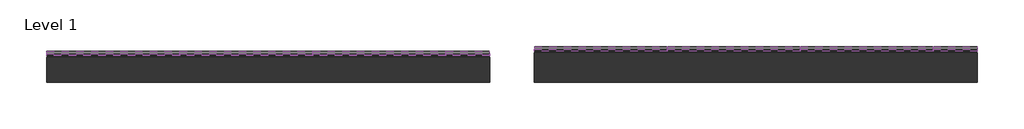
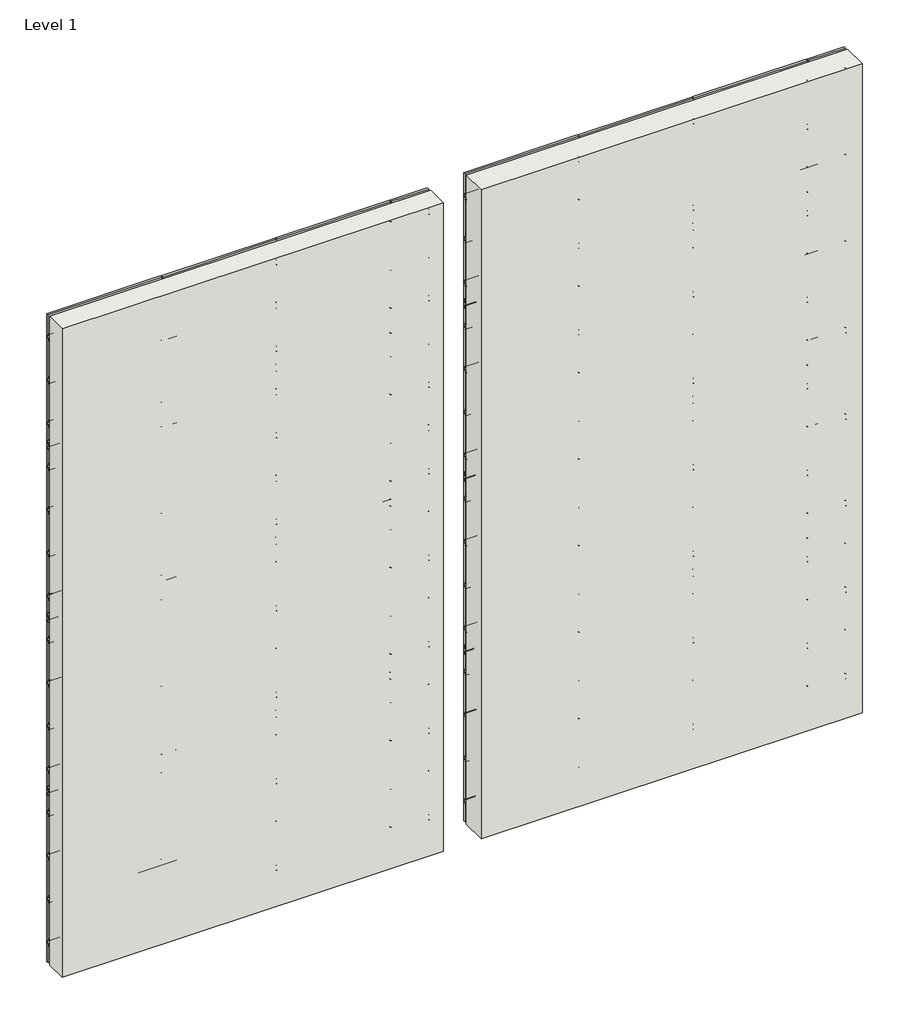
# One storey, incomplete: 32 plates, 24 members, 2 walls.
"""IFC4 building model written with IfcOpenShell, lengths in millimetres."""

from ifc_helpers import new_model, si_unit, origin, origin_with_axes, place, context, project, spatial, polyline, outline, extrude, transform, mapped, element, save
from components import rectangular_mullion_kws_revealrail_mullion_9bbd98a8, rectangular_mullion_kws_revealrail_mullion_add762a1, rectangular_mullion_kws_revealrail_mullion_47fc8865, plate_96b6a4fe, plate_c225038f, plate_bb21e225, plate_c696ad90

model = new_model("IFC4")

# Units and contexts
model_context = context("Model", 3, world=origin())
ifc_project = project(units=[si_unit("LENGTHUNIT", "METRE", prefix="MILLI")], contexts=[model_context])

# Site, building, storey
site = spatial("IfcSite", under=ifc_project)
building = spatial("IfcBuilding", under=site)
storey = spatial("IfcBuildingStorey", under=building, Name="Level 1", Elevation=0.0)

# Members
placement = place(None, origin())
rectangular_mullion_kws_revealrail_mullion_shape = rectangular_mullion_kws_revealrail_mullion_9bbd98a8(model_context)
element("IfcMember", 1, ObjectType="Rectangular Mullion : KWS_RevealRail_Mullion", at=placement, inside=storey, context=model_context, shape_type="MappedRepresentation", body=[
    mapped(rectangular_mullion_kws_revealrail_mullion_shape, transform((2855.9764743, 7354.7086092, 2438.4), x_axis=(0.0, 0.0, 1.0), y_axis=(0.0, -1.0, 0.0), z_axis=(1.0, 0.0, 0.0))),
])
element("IfcMember", 2, ObjectType="Rectangular Mullion : KWS_RevealRail_Mullion", at=placement, inside=storey, context=model_context, shape_type="MappedRepresentation", body=[
    mapped(rectangular_mullion_kws_revealrail_mullion_shape, transform((2855.9764743, 7354.7086092, 4876.8), x_axis=(0.0, 0.0, 1.0), y_axis=(0.0, -1.0, 0.0), z_axis=(1.0, 0.0, 0.0))),
])
element("IfcMember", 3, ObjectType="Rectangular Mullion : KWS_RevealRail_Mullion", at=placement, inside=storey, context=model_context, shape_type="MappedRepresentation", body=[
    mapped(rectangular_mullion_kws_revealrail_mullion_shape, transform((2855.9764743, 7354.7086092, 7315.2), x_axis=(0.0, 0.0, 1.0), y_axis=(0.0, -1.0, 0.0), z_axis=(1.0, 0.0, 0.0))),
])
element("IfcMember", 4, ObjectType="Rectangular Mullion : KWS_RevealRail_Mullion", at=placement, inside=storey, context=model_context, shape_type="MappedRepresentation", body=[
    mapped(rectangular_mullion_kws_revealrail_mullion_shape, transform((8443.9764743, 7405.5086092, 2438.4), x_axis=(0.0, 0.0, 1.0), y_axis=(0.0, -1.0, 0.0), z_axis=(1.0, 0.0, 0.0))),
])
element("IfcMember", 5, ObjectType="Rectangular Mullion : KWS_RevealRail_Mullion", at=placement, inside=storey, context=model_context, shape_type="MappedRepresentation", body=[
    mapped(rectangular_mullion_kws_revealrail_mullion_shape, transform((8443.9764743, 7405.5086092, 4876.8), x_axis=(0.0, 0.0, 1.0), y_axis=(0.0, -1.0, 0.0), z_axis=(1.0, 0.0, 0.0))),
])
element("IfcMember", 6, ObjectType="Rectangular Mullion : KWS_RevealRail_Mullion", at=placement, inside=storey, context=model_context, shape_type="MappedRepresentation", body=[
    mapped(rectangular_mullion_kws_revealrail_mullion_shape, transform((8443.9764743, 7405.5086092, 7315.2), x_axis=(0.0, 0.0, 1.0), y_axis=(0.0, -1.0, 0.0), z_axis=(1.0, 0.0, 0.0))),
])
rectangular_mullion_kws_revealrail_mullion_2_shape = rectangular_mullion_kws_revealrail_mullion_add762a1(model_context)
element("IfcMember", 7, ObjectType="Rectangular Mullion : KWS_RevealRail_Mullion", at=placement, inside=storey, context=model_context, shape_type="MappedRepresentation", body=[
    mapped(rectangular_mullion_kws_revealrail_mullion_2_shape, transform((4379.9764743, 7354.7086092, 2438.4), x_axis=(0.0, 0.0, 1.0), y_axis=(0.0, -1.0, 0.0), z_axis=(1.0, 0.0, 0.0))),
])
element("IfcMember", 8, ObjectType="Rectangular Mullion : KWS_RevealRail_Mullion", at=placement, inside=storey, context=model_context, shape_type="MappedRepresentation", body=[
    mapped(rectangular_mullion_kws_revealrail_mullion_2_shape, transform((5903.9764743, 7354.7086092, 2438.4), x_axis=(0.0, 0.0, 1.0), y_axis=(0.0, -1.0, 0.0), z_axis=(1.0, 0.0, 0.0))),
])
element("IfcMember", 9, ObjectType="Rectangular Mullion : KWS_RevealRail_Mullion", at=placement, inside=storey, context=model_context, shape_type="MappedRepresentation", body=[
    mapped(rectangular_mullion_kws_revealrail_mullion_2_shape, transform((4379.9764743, 7354.7086092, 4876.8), x_axis=(0.0, 0.0, 1.0), y_axis=(0.0, -1.0, 0.0), z_axis=(1.0, 0.0, 0.0))),
])
element("IfcMember", 10, ObjectType="Rectangular Mullion : KWS_RevealRail_Mullion", at=placement, inside=storey, context=model_context, shape_type="MappedRepresentation", body=[
    mapped(rectangular_mullion_kws_revealrail_mullion_2_shape, transform((5903.9764743, 7354.7086092, 4876.8), x_axis=(0.0, 0.0, 1.0), y_axis=(0.0, -1.0, 0.0), z_axis=(1.0, 0.0, 0.0))),
])
element("IfcMember", 11, ObjectType="Rectangular Mullion : KWS_RevealRail_Mullion", at=placement, inside=storey, context=model_context, shape_type="MappedRepresentation", body=[
    mapped(rectangular_mullion_kws_revealrail_mullion_2_shape, transform((4379.9764743, 7354.7086092, 7315.2), x_axis=(0.0, 0.0, 1.0), y_axis=(0.0, -1.0, 0.0), z_axis=(1.0, 0.0, 0.0))),
])
element("IfcMember", 12, ObjectType="Rectangular Mullion : KWS_RevealRail_Mullion", at=placement, inside=storey, context=model_context, shape_type="MappedRepresentation", body=[
    mapped(rectangular_mullion_kws_revealrail_mullion_2_shape, transform((5903.9764743, 7354.7086092, 7315.2), x_axis=(0.0, 0.0, 1.0), y_axis=(0.0, -1.0, 0.0), z_axis=(1.0, 0.0, 0.0))),
])
element("IfcMember", 13, ObjectType="Rectangular Mullion : KWS_RevealRail_Mullion", at=placement, inside=storey, context=model_context, shape_type="MappedRepresentation", body=[
    mapped(rectangular_mullion_kws_revealrail_mullion_2_shape, transform((9967.9764743, 7405.5086092, 2438.4), x_axis=(0.0, 0.0, 1.0), y_axis=(0.0, -1.0, 0.0), z_axis=(1.0, 0.0, 0.0))),
])
element("IfcMember", 14, ObjectType="Rectangular Mullion : KWS_RevealRail_Mullion", at=placement, inside=storey, context=model_context, shape_type="MappedRepresentation", body=[
    mapped(rectangular_mullion_kws_revealrail_mullion_2_shape, transform((11491.9764743, 7405.5086092, 2438.4), x_axis=(0.0, 0.0, 1.0), y_axis=(0.0, -1.0, 0.0), z_axis=(1.0, 0.0, 0.0))),
])
element("IfcMember", 15, ObjectType="Rectangular Mullion : KWS_RevealRail_Mullion", at=placement, inside=storey, context=model_context, shape_type="MappedRepresentation", body=[
    mapped(rectangular_mullion_kws_revealrail_mullion_2_shape, transform((9967.9764743, 7405.5086092, 4876.8), x_axis=(0.0, 0.0, 1.0), y_axis=(0.0, -1.0, 0.0), z_axis=(1.0, 0.0, 0.0))),
])
element("IfcMember", 16, ObjectType="Rectangular Mullion : KWS_RevealRail_Mullion", at=placement, inside=storey, context=model_context, shape_type="MappedRepresentation", body=[
    mapped(rectangular_mullion_kws_revealrail_mullion_2_shape, transform((11491.9764743, 7405.5086092, 4876.8), x_axis=(0.0, 0.0, 1.0), y_axis=(0.0, -1.0, 0.0), z_axis=(1.0, 0.0, 0.0))),
])
element("IfcMember", 17, ObjectType="Rectangular Mullion : KWS_RevealRail_Mullion", at=placement, inside=storey, context=model_context, shape_type="MappedRepresentation", body=[
    mapped(rectangular_mullion_kws_revealrail_mullion_2_shape, transform((9967.9764743, 7405.5086092, 7315.2), x_axis=(0.0, 0.0, 1.0), y_axis=(0.0, -1.0, 0.0), z_axis=(1.0, 0.0, 0.0))),
])
element("IfcMember", 18, ObjectType="Rectangular Mullion : KWS_RevealRail_Mullion", at=placement, inside=storey, context=model_context, shape_type="MappedRepresentation", body=[
    mapped(rectangular_mullion_kws_revealrail_mullion_2_shape, transform((11491.9764743, 7405.5086092, 7315.2), x_axis=(0.0, 0.0, 1.0), y_axis=(0.0, -1.0, 0.0), z_axis=(1.0, 0.0, 0.0))),
])
rectangular_mullion_kws_revealrail_mullion_3_shape = rectangular_mullion_kws_revealrail_mullion_47fc8865(model_context)
element("IfcMember", 19, ObjectType="Rectangular Mullion : KWS_RevealRail_Mullion", at=placement, inside=storey, context=model_context, shape_type="MappedRepresentation", body=[
    mapped(rectangular_mullion_kws_revealrail_mullion_3_shape, transform((6411.976474, 7354.7086092, 2438.4), x_axis=(0.0, 0.0, 1.0), y_axis=(0.0, -1.0, 0.0), z_axis=(1.0, 0.0, 0.0))),
])
element("IfcMember", 20, ObjectType="Rectangular Mullion : KWS_RevealRail_Mullion", at=placement, inside=storey, context=model_context, shape_type="MappedRepresentation", body=[
    mapped(rectangular_mullion_kws_revealrail_mullion_3_shape, transform((6411.976474, 7354.7086092, 4876.8), x_axis=(0.0, 0.0, 1.0), y_axis=(0.0, -1.0, 0.0), z_axis=(1.0, 0.0, 0.0))),
])
element("IfcMember", 21, ObjectType="Rectangular Mullion : KWS_RevealRail_Mullion", at=placement, inside=storey, context=model_context, shape_type="MappedRepresentation", body=[
    mapped(rectangular_mullion_kws_revealrail_mullion_3_shape, transform((6411.976474, 7354.7086092, 7315.2), x_axis=(0.0, 0.0, 1.0), y_axis=(0.0, -1.0, 0.0), z_axis=(1.0, 0.0, 0.0))),
])
element("IfcMember", 22, ObjectType="Rectangular Mullion : KWS_RevealRail_Mullion", at=placement, inside=storey, context=model_context, shape_type="MappedRepresentation", body=[
    mapped(rectangular_mullion_kws_revealrail_mullion_3_shape, transform((11999.976474, 7405.5086092, 2438.4), x_axis=(0.0, 0.0, 1.0), y_axis=(0.0, -1.0, 0.0), z_axis=(1.0, 0.0, 0.0))),
])
element("IfcMember", 23, ObjectType="Rectangular Mullion : KWS_RevealRail_Mullion", at=placement, inside=storey, context=model_context, shape_type="MappedRepresentation", body=[
    mapped(rectangular_mullion_kws_revealrail_mullion_3_shape, transform((11999.976474, 7405.5086092, 4876.8), x_axis=(0.0, 0.0, 1.0), y_axis=(0.0, -1.0, 0.0), z_axis=(1.0, 0.0, 0.0))),
])
element("IfcMember", 24, ObjectType="Rectangular Mullion : KWS_RevealRail_Mullion", at=placement, inside=storey, context=model_context, shape_type="MappedRepresentation", body=[
    mapped(rectangular_mullion_kws_revealrail_mullion_3_shape, transform((11999.976474, 7405.5086092, 7315.2), x_axis=(0.0, 0.0, 1.0), y_axis=(0.0, -1.0, 0.0), z_axis=(1.0, 0.0, 0.0))),
])

# Plates
plate_shape = plate_96b6a4fe(model_context)
element("IfcPlate", 25, ObjectType="KWS_Generic-Panel_w_PanelRail-H : 2\" x 3/4\"", at=placement, inside=storey, context=model_context, shape_type="MappedRepresentation", body=[
    mapped(plate_shape, transform((2093.9764741, 7354.7086092, 0.0), x_axis=(1.0, 0.0, 0.0), y_axis=(0.0, 1.0, 0.0), z_axis=(0.0, 0.0, 1.0))),
])
element("IfcPlate", 26, ObjectType="KWS_Generic-Panel_w_PanelRail-H : 2\" x 3/4\"", at=placement, inside=storey, context=model_context, shape_type="MappedRepresentation", body=[
    mapped(plate_shape, transform((3617.9764743, 7354.7086092, 0.0), x_axis=(1.0, 0.0, 0.0), y_axis=(0.0, 1.0, 0.0), z_axis=(0.0, 0.0, 1.0))),
])
element("IfcPlate", 27, ObjectType="KWS_Generic-Panel_w_PanelRail-H : 2\" x 3/4\"", at=placement, inside=storey, context=model_context, shape_type="MappedRepresentation", body=[
    mapped(plate_shape, transform((5141.9764743, 7354.7086092, 0.0), x_axis=(1.0, 0.0, 0.0), y_axis=(0.0, 1.0, 0.0), z_axis=(0.0, 0.0, 1.0))),
])
element("IfcPlate", 28, ObjectType="KWS_Generic-Panel_w_PanelRail-H : 2\" x 3/4\"", at=placement, inside=storey, context=model_context, shape_type="MappedRepresentation", body=[
    mapped(plate_shape, transform((2093.9764741, 7354.7086092, 2438.4), x_axis=(1.0, 0.0, 0.0), y_axis=(0.0, 1.0, 0.0), z_axis=(0.0, 0.0, 1.0))),
])
element("IfcPlate", 29, ObjectType="KWS_Generic-Panel_w_PanelRail-H : 2\" x 3/4\"", at=placement, inside=storey, context=model_context, shape_type="MappedRepresentation", body=[
    mapped(plate_shape, transform((3617.9764743, 7354.7086092, 2438.4), x_axis=(1.0, 0.0, 0.0), y_axis=(0.0, 1.0, 0.0), z_axis=(0.0, 0.0, 1.0))),
])
element("IfcPlate", 30, ObjectType="KWS_Generic-Panel_w_PanelRail-H : 2\" x 3/4\"", at=placement, inside=storey, context=model_context, shape_type="MappedRepresentation", body=[
    mapped(plate_shape, transform((5141.9764743, 7354.7086092, 2438.4), x_axis=(1.0, 0.0, 0.0), y_axis=(0.0, 1.0, 0.0), z_axis=(0.0, 0.0, 1.0))),
])
element("IfcPlate", 31, ObjectType="KWS_Generic-Panel_w_PanelRail-H : 2\" x 3/4\"", at=placement, inside=storey, context=model_context, shape_type="MappedRepresentation", body=[
    mapped(plate_shape, transform((2093.9764741, 7354.7086092, 4876.8), x_axis=(1.0, 0.0, 0.0), y_axis=(0.0, 1.0, 0.0), z_axis=(0.0, 0.0, 1.0))),
])
element("IfcPlate", 32, ObjectType="KWS_Generic-Panel_w_PanelRail-H : 2\" x 3/4\"", at=placement, inside=storey, context=model_context, shape_type="MappedRepresentation", body=[
    mapped(plate_shape, transform((3617.9764743, 7354.7086092, 4876.8), x_axis=(1.0, 0.0, 0.0), y_axis=(0.0, 1.0, 0.0), z_axis=(0.0, 0.0, 1.0))),
])
element("IfcPlate", 33, ObjectType="KWS_Generic-Panel_w_PanelRail-H : 2\" x 3/4\"", at=placement, inside=storey, context=model_context, shape_type="MappedRepresentation", body=[
    mapped(plate_shape, transform((5141.9764743, 7354.7086092, 4876.8), x_axis=(1.0, 0.0, 0.0), y_axis=(0.0, 1.0, 0.0), z_axis=(0.0, 0.0, 1.0))),
])
element("IfcPlate", 34, ObjectType="KWS_Generic-Panel_w_PanelRail-H : 2\" x 3/4\"", at=placement, inside=storey, context=model_context, shape_type="MappedRepresentation", body=[
    mapped(plate_shape, transform((7681.9764741, 7405.5086092, 0.0), x_axis=(1.0, 0.0, 0.0), y_axis=(0.0, 1.0, 0.0), z_axis=(0.0, 0.0, 1.0))),
])
element("IfcPlate", 35, ObjectType="KWS_Generic-Panel_w_PanelRail-H : 2\" x 3/4\"", at=placement, inside=storey, context=model_context, shape_type="MappedRepresentation", body=[
    mapped(plate_shape, transform((9205.9764743, 7405.5086092, 0.0), x_axis=(1.0, 0.0, 0.0), y_axis=(0.0, 1.0, 0.0), z_axis=(0.0, 0.0, 1.0))),
])
element("IfcPlate", 36, ObjectType="KWS_Generic-Panel_w_PanelRail-H : 2\" x 3/4\"", at=placement, inside=storey, context=model_context, shape_type="MappedRepresentation", body=[
    mapped(plate_shape, transform((10729.9764743, 7405.5086092, 0.0), x_axis=(1.0, 0.0, 0.0), y_axis=(0.0, 1.0, 0.0), z_axis=(0.0, 0.0, 1.0))),
])
element("IfcPlate", 37, ObjectType="KWS_Generic-Panel_w_PanelRail-H : 2\" x 3/4\"", at=placement, inside=storey, context=model_context, shape_type="MappedRepresentation", body=[
    mapped(plate_shape, transform((7681.9764741, 7405.5086092, 2438.4), x_axis=(1.0, 0.0, 0.0), y_axis=(0.0, 1.0, 0.0), z_axis=(0.0, 0.0, 1.0))),
])
element("IfcPlate", 38, ObjectType="KWS_Generic-Panel_w_PanelRail-H : 2\" x 3/4\"", at=placement, inside=storey, context=model_context, shape_type="MappedRepresentation", body=[
    mapped(plate_shape, transform((9205.9764743, 7405.5086092, 2438.4), x_axis=(1.0, 0.0, 0.0), y_axis=(0.0, 1.0, 0.0), z_axis=(0.0, 0.0, 1.0))),
])
element("IfcPlate", 39, ObjectType="KWS_Generic-Panel_w_PanelRail-H : 2\" x 3/4\"", at=placement, inside=storey, context=model_context, shape_type="MappedRepresentation", body=[
    mapped(plate_shape, transform((10729.9764743, 7405.5086092, 2438.4), x_axis=(1.0, 0.0, 0.0), y_axis=(0.0, 1.0, 0.0), z_axis=(0.0, 0.0, 1.0))),
])
element("IfcPlate", 40, ObjectType="KWS_Generic-Panel_w_PanelRail-H : 2\" x 3/4\"", at=placement, inside=storey, context=model_context, shape_type="MappedRepresentation", body=[
    mapped(plate_shape, transform((7681.9764741, 7405.5086092, 4876.8), x_axis=(1.0, 0.0, 0.0), y_axis=(0.0, 1.0, 0.0), z_axis=(0.0, 0.0, 1.0))),
])
element("IfcPlate", 41, ObjectType="KWS_Generic-Panel_w_PanelRail-H : 2\" x 3/4\"", at=placement, inside=storey, context=model_context, shape_type="MappedRepresentation", body=[
    mapped(plate_shape, transform((9205.9764743, 7405.5086092, 4876.8), x_axis=(1.0, 0.0, 0.0), y_axis=(0.0, 1.0, 0.0), z_axis=(0.0, 0.0, 1.0))),
])
element("IfcPlate", 42, ObjectType="KWS_Generic-Panel_w_PanelRail-H : 2\" x 3/4\"", at=placement, inside=storey, context=model_context, shape_type="MappedRepresentation", body=[
    mapped(plate_shape, transform((10729.9764743, 7405.5086092, 4876.8), x_axis=(1.0, 0.0, 0.0), y_axis=(0.0, 1.0, 0.0), z_axis=(0.0, 0.0, 1.0))),
])
plate_2_shape = plate_c225038f(model_context)
element("IfcPlate", 43, ObjectType="KWS_Generic-Panel_w_PanelRail-H : 2\" x 3/4\"", at=placement, inside=storey, context=model_context, shape_type="MappedRepresentation", body=[
    mapped(plate_2_shape, transform((6157.9764741, 7354.7086092, 0.0), x_axis=(1.0, 0.0, 0.0), y_axis=(0.0, 1.0, 0.0), z_axis=(0.0, 0.0, 1.0))),
])
element("IfcPlate", 44, ObjectType="KWS_Generic-Panel_w_PanelRail-H : 2\" x 3/4\"", at=placement, inside=storey, context=model_context, shape_type="MappedRepresentation", body=[
    mapped(plate_2_shape, transform((6157.9764741, 7354.7086092, 2438.4), x_axis=(1.0, 0.0, 0.0), y_axis=(0.0, 1.0, 0.0), z_axis=(0.0, 0.0, 1.0))),
])
element("IfcPlate", 45, ObjectType="KWS_Generic-Panel_w_PanelRail-H : 2\" x 3/4\"", at=placement, inside=storey, context=model_context, shape_type="MappedRepresentation", body=[
    mapped(plate_2_shape, transform((6157.9764741, 7354.7086092, 4876.8), x_axis=(1.0, 0.0, 0.0), y_axis=(0.0, 1.0, 0.0), z_axis=(0.0, 0.0, 1.0))),
])
element("IfcPlate", 46, ObjectType="KWS_Generic-Panel_w_PanelRail-H : 2\" x 3/4\"", at=placement, inside=storey, context=model_context, shape_type="MappedRepresentation", body=[
    mapped(plate_2_shape, transform((11745.9764741, 7405.5086092, 0.0), x_axis=(1.0, 0.0, 0.0), y_axis=(0.0, 1.0, 0.0), z_axis=(0.0, 0.0, 1.0))),
])
element("IfcPlate", 47, ObjectType="KWS_Generic-Panel_w_PanelRail-H : 2\" x 3/4\"", at=placement, inside=storey, context=model_context, shape_type="MappedRepresentation", body=[
    mapped(plate_2_shape, transform((11745.9764741, 7405.5086092, 2438.4), x_axis=(1.0, 0.0, 0.0), y_axis=(0.0, 1.0, 0.0), z_axis=(0.0, 0.0, 1.0))),
])
element("IfcPlate", 48, ObjectType="KWS_Generic-Panel_w_PanelRail-H : 2\" x 3/4\"", at=placement, inside=storey, context=model_context, shape_type="MappedRepresentation", body=[
    mapped(plate_2_shape, transform((11745.9764741, 7405.5086092, 4876.8), x_axis=(1.0, 0.0, 0.0), y_axis=(0.0, 1.0, 0.0), z_axis=(0.0, 0.0, 1.0))),
])
plate_3_shape = plate_bb21e225(model_context)
element("IfcPlate", 49, ObjectType="KWS_Generic-Panel_w_PanelRail-H : 2\" x 3/4\"", at=placement, inside=storey, context=model_context, shape_type="MappedRepresentation", body=[
    mapped(plate_3_shape, transform((2093.9764741, 7354.7086092, 7315.2), x_axis=(1.0, 0.0, 0.0), y_axis=(0.0, 1.0, 0.0), z_axis=(0.0, 0.0, 1.0))),
])
element("IfcPlate", 50, ObjectType="KWS_Generic-Panel_w_PanelRail-H : 2\" x 3/4\"", at=placement, inside=storey, context=model_context, shape_type="MappedRepresentation", body=[
    mapped(plate_3_shape, transform((3617.9764743, 7354.7086092, 7315.2), x_axis=(1.0, 0.0, 0.0), y_axis=(0.0, 1.0, 0.0), z_axis=(0.0, 0.0, 1.0))),
])
element("IfcPlate", 51, ObjectType="KWS_Generic-Panel_w_PanelRail-H : 2\" x 3/4\"", at=placement, inside=storey, context=model_context, shape_type="MappedRepresentation", body=[
    mapped(plate_3_shape, transform((5141.9764743, 7354.7086092, 7315.2), x_axis=(1.0, 0.0, 0.0), y_axis=(0.0, 1.0, 0.0), z_axis=(0.0, 0.0, 1.0))),
])
element("IfcPlate", 52, ObjectType="KWS_Generic-Panel_w_PanelRail-H : 2\" x 3/4\"", at=placement, inside=storey, context=model_context, shape_type="MappedRepresentation", body=[
    mapped(plate_3_shape, transform((7681.9764741, 7405.5086092, 7315.2), x_axis=(1.0, 0.0, 0.0), y_axis=(0.0, 1.0, 0.0), z_axis=(0.0, 0.0, 1.0))),
])
element("IfcPlate", 53, ObjectType="KWS_Generic-Panel_w_PanelRail-H : 2\" x 3/4\"", at=placement, inside=storey, context=model_context, shape_type="MappedRepresentation", body=[
    mapped(plate_3_shape, transform((9205.9764743, 7405.5086092, 7315.2), x_axis=(1.0, 0.0, 0.0), y_axis=(0.0, 1.0, 0.0), z_axis=(0.0, 0.0, 1.0))),
])
element("IfcPlate", 54, ObjectType="KWS_Generic-Panel_w_PanelRail-H : 2\" x 3/4\"", at=placement, inside=storey, context=model_context, shape_type="MappedRepresentation", body=[
    mapped(plate_3_shape, transform((10729.9764743, 7405.5086092, 7315.2), x_axis=(1.0, 0.0, 0.0), y_axis=(0.0, 1.0, 0.0), z_axis=(0.0, 0.0, 1.0))),
])
plate_4_shape = plate_c696ad90(model_context)
element("IfcPlate", 55, ObjectType="KWS_Generic-Panel_w_PanelRail-H : 2\" x 3/4\"", at=placement, inside=storey, context=model_context, shape_type="MappedRepresentation", body=[
    mapped(plate_4_shape, transform((6157.9764741, 7354.7086092, 7315.2), x_axis=(1.0, 0.0, 0.0), y_axis=(0.0, 1.0, 0.0), z_axis=(0.0, 0.0, 1.0))),
])
element("IfcPlate", 56, ObjectType="KWS_Generic-Panel_w_PanelRail-H : 2\" x 3/4\"", at=placement, inside=storey, context=model_context, shape_type="MappedRepresentation", body=[
    mapped(plate_4_shape, transform((11745.9764741, 7405.5086092, 7315.2), x_axis=(1.0, 0.0, 0.0), y_axis=(0.0, 1.0, 0.0), z_axis=(0.0, 0.0, 1.0))),
])

# Walls
element("IfcWall", 57, ObjectType="Exterior - Backup Wall System - Concrete Block", at=placement, inside=storey, context=model_context, shape_type="SweptSolid", body=[
    extrude(outline(polyline([(6411.976474, 7046.7336092), (1331.976474, 7046.7336092), (1331.976474, 7335.6586092), (6411.976474, 7335.6586092), (6411.976474, 7046.7336092)])), origin_with_axes(), (0.0, 0.0, 1.0), 9144.0),
])
element("IfcWall", 58, ObjectType="Exterior - Backup Wall System - Concrete Block 2", at=placement, inside=storey, context=model_context, shape_type="SweptSolid", body=[
    extrude(outline(polyline([(11999.976474, 7046.7336092), (6919.976474, 7046.7336092), (6919.976474, 7386.4586092), (11999.976474, 7386.4586092), (11999.976474, 7046.7336092)])), origin_with_axes(), (0.0, 0.0, 1.0), 9144.0),
])

save(model, "model.ifc")
